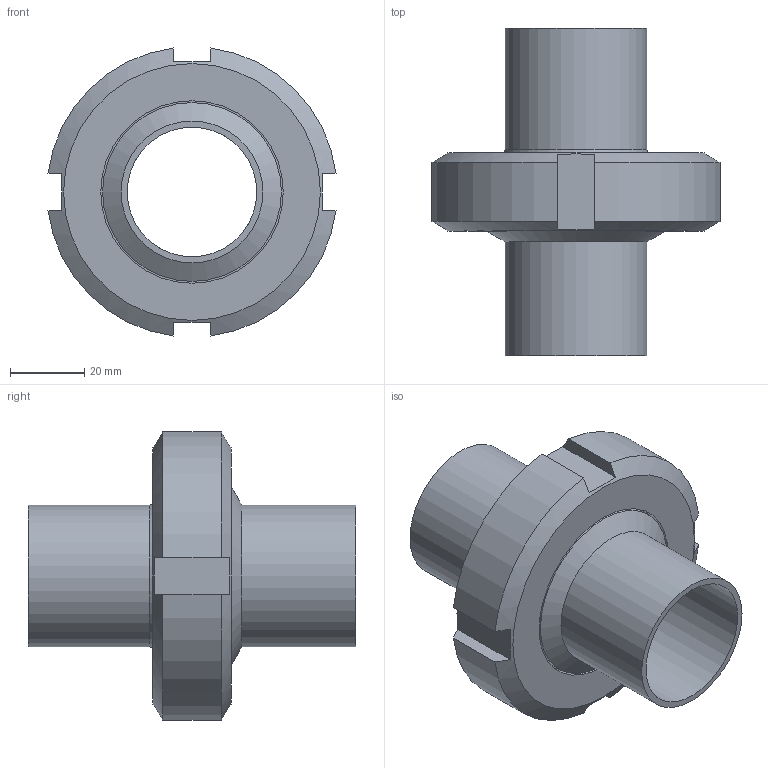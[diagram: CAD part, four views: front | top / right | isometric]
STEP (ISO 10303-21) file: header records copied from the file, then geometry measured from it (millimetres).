
FILE_DESCRIPTION(/* description */ ('Aseptik_Rohrverbindung_DIN 11864-1-A_38,1x1,65_L88'),/* implementation_level */ '2;1');
FILE_NAME(/* name */ 'L:\Normteile\N0024 - Rohrverbindungen\N0024_002 - DIN11864\N0024_002_001 - geschraubt\N0024_002_001\Step Marketing\DIN11864-1-A_38,1x1,65_L88.stp',/* time_stamp */ '2021-08-31T10:29:05+02:00',/* author */ ('Csasse'),/* organization */ ('Dockweiler AG'),/* preprocessor_version */ 'ST-DEVELOPER v18',/* originating_system */ 'Autodesk Inventor 2020',/* authorisation */ '');
FILE_SCHEMA (('AUTOMOTIVE_DESIGN { 1 0 10303 214 3 1 1 }'));
Length unit declared in the file: millimetre
Products named in the file (5): N0024_002_001_52; N0003_007_001_24; N0003_007_002_24; N0005_005_002_001_25; N0009_009_16
Assembly tree (4 placements, depth 2):
  N0024_002_001_52
    N0003_007_001_24
    N0003_007_002_24
    N0005_005_002_001_25
    N0009_009_16
Bounding box: 77.36 x 88 x 77.36 mm (x, y, z)
Volume: 89939.2 mm3; surface area: 47063.6 mm2
Topology: 4 solids, 4 shells, 60 faces, 176 edges, 128 vertices
Faces by surface type: plane 24, cylinder 14, torus 12, cone 10
Full cylindrical faces by diameter (mm): 34.8 x2, 38.1 x2, 48 x1, 49 x1, 54.9 x1, 55 x1, 60.767 x1, 65.423 x1
Entity records: 2344 total; most frequent: CARTESIAN_POINT 425, DIRECTION 402, ORIENTED_EDGE 352, AXIS2_PLACEMENT_3D 183, EDGE_CURVE 176, VERTEX_POINT 128, CIRCLE 114, EDGE_LOOP 72
